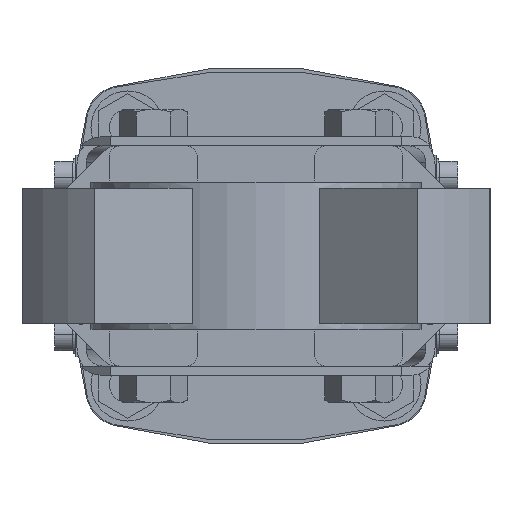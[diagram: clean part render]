
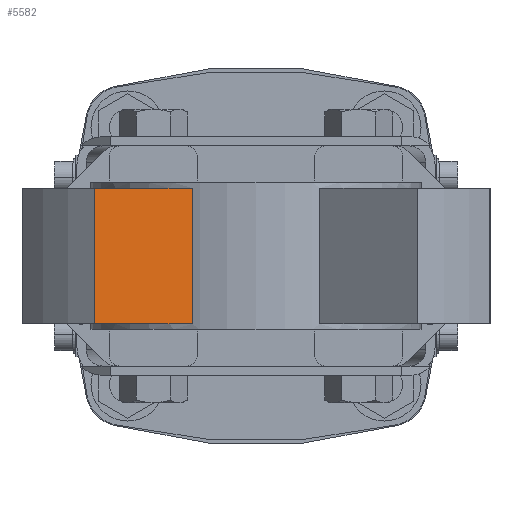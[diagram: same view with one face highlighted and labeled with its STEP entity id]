
A CAD part, front view. The second image highlights one B-rep face of the part: STEP entity #5582.
In plain terms, the highlighted planar face has unit normal (0.643, -0.766, 0).
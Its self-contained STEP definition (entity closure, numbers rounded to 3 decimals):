
#5475 = VERTEX_POINT ( 'NONE', #21760 ) ;
#5509 = ORIENTED_EDGE ( 'NONE', *, *, #5515, .F. ) ;
#5510 = ORIENTED_EDGE ( 'NONE', *, *, #5511, .T. ) ;
#5511 = EDGE_CURVE ( 'NONE', #5513, #5475, #21810, .T. ) ;
#5513 = VERTEX_POINT ( 'NONE', #21863 ) ;
#5515 = EDGE_CURVE ( 'NONE', #5513, #5516, #21862, .T. ) ;
#5516 = VERTEX_POINT ( 'NONE', #21858 ) ;
#5532 = VERTEX_POINT ( 'NONE', #21897 ) ;
#5534 = EDGE_CURVE ( 'NONE', #5475, #5532, #21896, .T. ) ;
#5582 = ADVANCED_FACE ( 'NONE', ( #21953 ), #21951, .F. ) ;
#5583 = EDGE_LOOP ( 'NONE', ( #5584, #5585, #5509, #5510 ) ) ;
#5584 = ORIENTED_EDGE ( 'NONE', *, *, #5534, .T. ) ;
#5585 = ORIENTED_EDGE ( 'NONE', *, *, #5586, .F. ) ;
#5586 = EDGE_CURVE ( 'NONE', #5516, #5532, #21952, .T. ) ;
#21760 = CARTESIAN_POINT ( 'NONE',  ( -44., -63.799, -18.5 ) ) ;
#21807 = DIRECTION ( 'NONE',  ( 0., 0., -1. ) ) ;
#21808 = VECTOR ( 'NONE', #21807, 1000. ) ;
#21809 = CARTESIAN_POINT ( 'NONE',  ( -44., -63.799, 18.5 ) ) ;
#21810 = LINE ( 'NONE', #21809, #21808 ) ;
#21858 = CARTESIAN_POINT ( 'NONE',  ( -17.417, -41.493, 18.5 ) ) ;
#21859 = DIRECTION ( 'NONE',  ( 0.766, 0.643, 0. ) ) ;
#21860 = VECTOR ( 'NONE', #21859, 1000. ) ;
#21861 = CARTESIAN_POINT ( 'NONE',  ( -17.417, -41.493, 18.5 ) ) ;
#21862 = LINE ( 'NONE', #21861, #21860 ) ;
#21863 = CARTESIAN_POINT ( 'NONE',  ( -44., -63.799, 18.5 ) ) ;
#21893 = DIRECTION ( 'NONE',  ( 0.766, 0.643, 0. ) ) ;
#21894 = VECTOR ( 'NONE', #21893, 1000. ) ;
#21895 = CARTESIAN_POINT ( 'NONE',  ( -17.417, -41.493, -18.5 ) ) ;
#21896 = LINE ( 'NONE', #21895, #21894 ) ;
#21897 = CARTESIAN_POINT ( 'NONE',  ( -17.417, -41.493, -18.5 ) ) ;
#21943 = DIRECTION ( 'NONE',  ( 0., 0., -1. ) ) ;
#21944 = VECTOR ( 'NONE', #21943, 1000. ) ;
#21946 = CARTESIAN_POINT ( 'NONE',  ( -17.417, -41.493, 18.5 ) ) ;
#21947 = DIRECTION ( 'NONE',  ( -0.766, -0.643, 0. ) ) ;
#21948 = DIRECTION ( 'NONE',  ( -0.643, 0.766, 0. ) ) ;
#21949 = CARTESIAN_POINT ( 'NONE',  ( -17.417, -41.493, 18.5 ) ) ;
#21950 = AXIS2_PLACEMENT_3D ( 'NONE', #21949, #21948, #21947 ) ;
#21951 = PLANE ( 'NONE',  #21950 ) ;
#21952 = LINE ( 'NONE', #21946, #21944 ) ;
#21953 = FACE_OUTER_BOUND ( 'NONE', #5583, .T. ) ;
